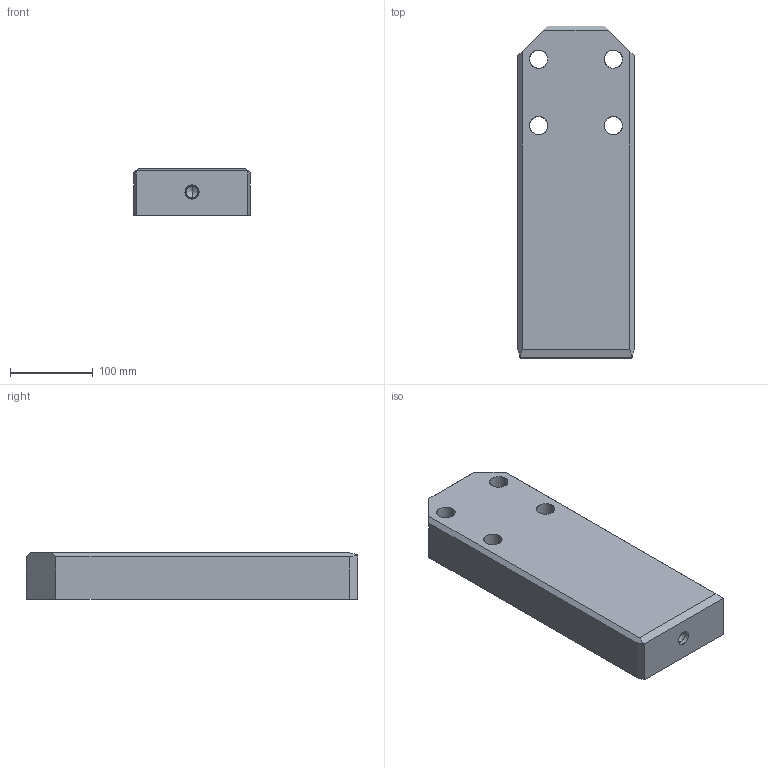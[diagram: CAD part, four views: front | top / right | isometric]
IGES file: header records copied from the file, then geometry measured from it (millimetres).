
Start section: START RECORD GO HERE.
Global section: file name: A927-140X400X56.igs; native system: DASSAULT SYSTEMES CATIA V5 R20 - www.3ds.com; preprocessor: CATIA Version 5 Release 20 ; author: Utente; organization: NB04-ASUS; date: 20200408.202209; units: millimetre
Bounding box: 140 x 400 x 56 mm (x, y, z)
Surface area: 182238.8 mm2 (no closed solid volume)
Topology: 0 solids, 0 shells, 52 faces, 242 edges, 240 vertices
Faces by surface type: revolution 32, extrusion 20
